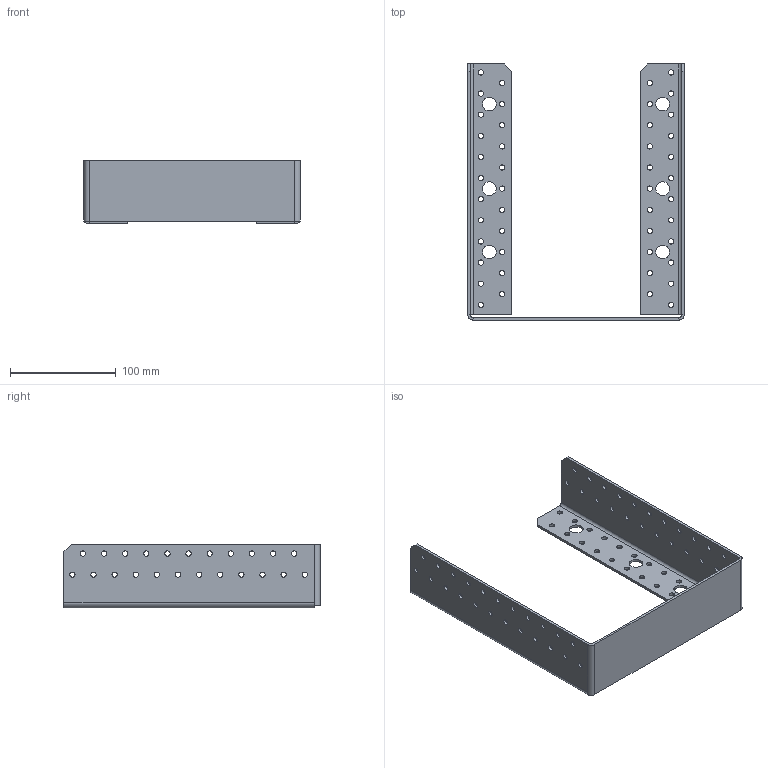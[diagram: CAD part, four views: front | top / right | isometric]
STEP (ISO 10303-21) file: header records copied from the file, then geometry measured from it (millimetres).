
FILE_DESCRIPTION (( 'STEP AP203' ), '1' );
FILE_NAME ('40525IKO.STEP', '2021-04-16T10:05:41', ( '' ), ( '' ), 'SwSTEP 2.0', 'SolidWorks 2013', '' );
FILE_SCHEMA (( 'CONFIG_CONTROL_DESIGN' ));
Length unit declared in the file: millimetre
Products named in the file (1): 40525IKO
Bounding box: 205 x 242.5 x 60.5 mm (x, y, z)
Volume: 139476.2 mm3; surface area: 119865.4 mm2
Topology: 1 solids, 1 shells, 240 faces, 684 edges, 446 vertices
Faces by surface type: cylinder 204, plane 36
Entity records: 8487 total; most frequent: DIRECTION 1576, CARTESIAN_POINT 1371, ORIENTED_EDGE 1368, EDGE_CURVE 684, AXIS2_PLACEMENT_3D 651, VERTEX_POINT 446, EDGE_LOOP 436, CIRCLE 410
